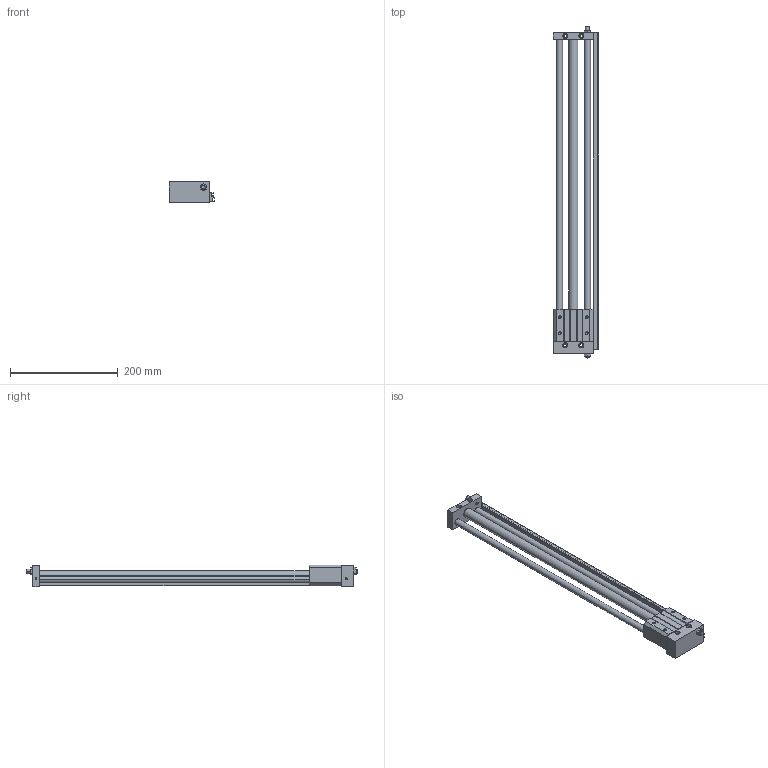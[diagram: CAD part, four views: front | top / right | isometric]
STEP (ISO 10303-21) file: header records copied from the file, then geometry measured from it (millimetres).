
FILE_DESCRIPTION((''),'2;1');
FILE_NAME('C:\Documents and Settings\Administrator\桌面\GYS\GYS15\GYSR15X500.stp','2012-03-05T10:52:05',('Administrator'),(''),'Autodesk Inventor 8','Autodesk Inventor 8','');
FILE_SCHEMA(('AUTOMOTIVE_DESIGN { 1 0 10303 214 1 1 1 1 }'));
Length unit declared in the file: millimetre
Products named in the file (3): GYSR15X500; GYS15X500; GYS15160X500
Assembly tree (2 placements, depth 2):
  GYSR15X500
    GYS15X500
    GYS15160X500
Bounding box: 85 x 617 x 40 mm (x, y, z)
Volume: 551217.3 mm3; surface area: 152503.3 mm2
Topology: 2 solids, 2 shells, 201 faces, 494 edges, 320 vertices
Faces by surface type: plane 107, cylinder 60, cone 28, bspline 6
Entity records: 6100 total; most frequent: CARTESIAN_POINT 1094, DIRECTION 1058, ORIENTED_EDGE 988, EDGE_CURVE 494, AXIS2_PLACEMENT_3D 364, VECTOR 330, LINE 330, VERTEX_POINT 320
